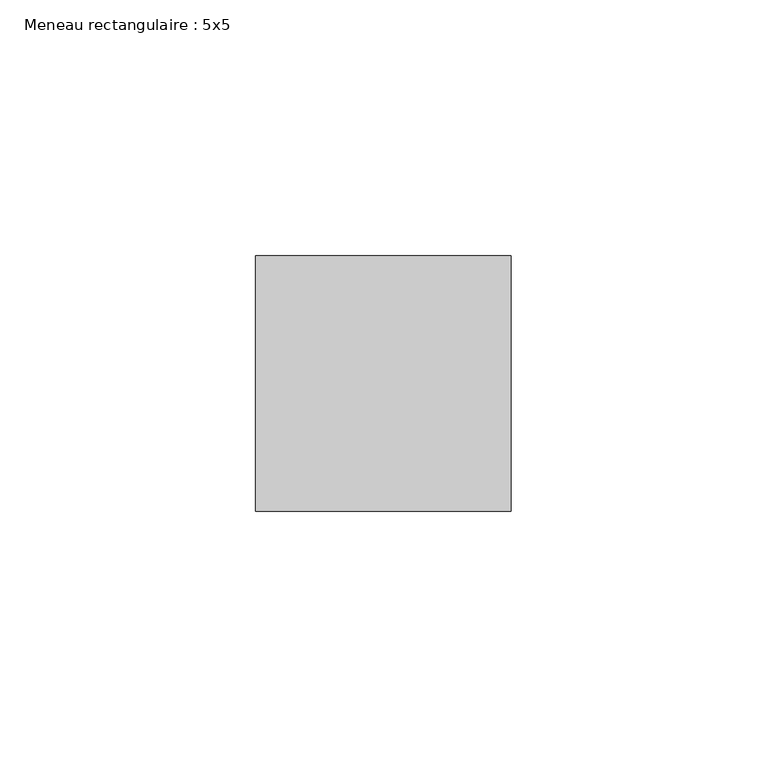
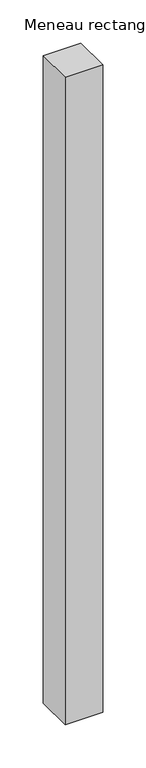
"""IFC4 building model written with IfcOpenShell, lengths in millimetres: member geometry, Meneau rectangulaire : 5x5."""

from ifc_helpers import new_model, si_unit, frame, origin, place, context, project, spatial, polyline, outline, extrude, source, transform, mapped, element, save


def meneau_rectangulaire_5x5_031618b5(model_context):
    return source(origin(), model_context, "Body", "SweptSolid", [
        extrude(outline(polyline([(25.0, 25.0), (25.0, -25.0), (-25.0, -25.0), (-25.0, 25.0), (25.0, 25.0)])), frame((0.0, 0.0, -911.1556083), z_axis=(0.0, 0.0, 1.0), x_axis=(1.0, 0.0, 0.0)), (0.0, 0.0, 1.0), 911.1556083),
    ])


if __name__ == "__main__":
    model = new_model("IFC4")
    model_context = context("Model", 3, world=origin())
    ifc_project = project(units=[si_unit("LENGTHUNIT", "METRE", prefix="MILLI")], contexts=[model_context])
    site = spatial("IfcSite", under=ifc_project)
    building = spatial("IfcBuilding", under=site)
    placement = place(None, origin())
    meneau_rectangulaire_5x5_shape = meneau_rectangulaire_5x5_031618b5(model_context)
    element("IfcMember", 1, ObjectType="Meneau rectangulaire : 5x5", at=placement, inside=building, context=model_context, shape_type="MappedRepresentation", body=[
        mapped(meneau_rectangulaire_5x5_shape, transform((0.0, 0.0, 0.0), x_axis=(1.0, 0.0, 0.0), y_axis=(0.0, 1.0, 0.0), z_axis=(0.0, 0.0, 1.0))),
    ])
    save(model, "model.ifc")
